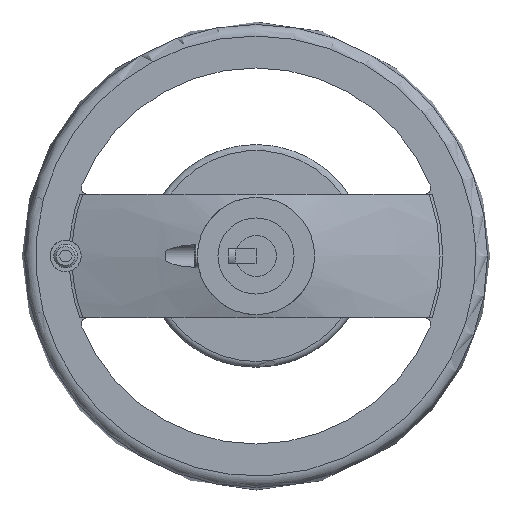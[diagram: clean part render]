
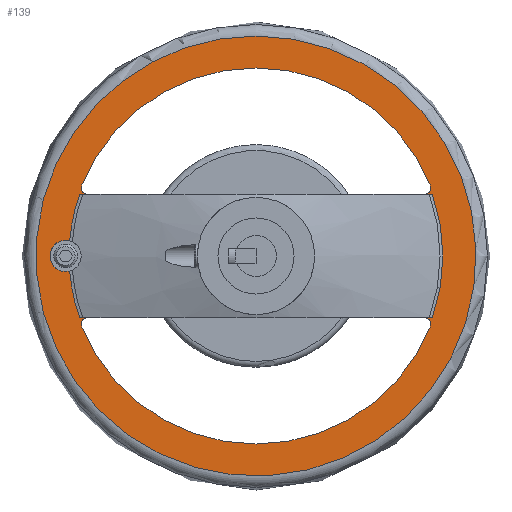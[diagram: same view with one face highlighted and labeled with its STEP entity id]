
A CAD part, left-side view. The second image highlights one B-rep face of the part: STEP entity #139.
In plain terms, the highlighted planar face has unit normal (-1, 0, 0).
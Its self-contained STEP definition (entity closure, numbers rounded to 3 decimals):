
#139 = ADVANCED_FACE( '', ( #347, #348, #349, #350 ), #351, .F. );
#347 = FACE_BOUND( '', #602, .T. );
#348 = FACE_OUTER_BOUND( '', #603, .T. );
#349 = FACE_BOUND( '', #604, .T. );
#350 = FACE_BOUND( '', #605, .T. );
#351 = PLANE( '', #606 );
#602 = EDGE_LOOP( '', ( #1198, #1199, #1200, #1201, #1202, #1203 ) );
#603 = EDGE_LOOP( '', ( #1204, #1205, #1206, #1207, #1208, #1209 ) );
#604 = EDGE_LOOP( '', ( #1210, #1211, #1212, #1213 ) );
#605 = EDGE_LOOP( '', ( #1214, #1215, #1216, #1217 ) );
#606 = AXIS2_PLACEMENT_3D( '', #1218, #1219, #1220 );
#1198 = ORIENTED_EDGE( '', *, *, #1688, .F. );
#1199 = ORIENTED_EDGE( '', *, *, #1541, .F. );
#1200 = ORIENTED_EDGE( '', *, *, #1544, .F. );
#1201 = ORIENTED_EDGE( '', *, *, #1546, .F. );
#1202 = ORIENTED_EDGE( '', *, *, #1689, .F. );
#1203 = ORIENTED_EDGE( '', *, *, #1690, .F. );
#1204 = ORIENTED_EDGE( '', *, *, #1691, .F. );
#1205 = ORIENTED_EDGE( '', *, *, #1685, .T. );
#1206 = ORIENTED_EDGE( '', *, *, #1659, .F. );
#1207 = ORIENTED_EDGE( '', *, *, #1692, .F. );
#1208 = ORIENTED_EDGE( '', *, *, #1683, .T. );
#1209 = ORIENTED_EDGE( '', *, *, #1693, .F. );
#1210 = ORIENTED_EDGE( '', *, *, #1694, .F. );
#1211 = ORIENTED_EDGE( '', *, *, #1648, .F. );
#1212 = ORIENTED_EDGE( '', *, *, #1695, .F. );
#1213 = ORIENTED_EDGE( '', *, *, #1696, .F. );
#1214 = ORIENTED_EDGE( '', *, *, #1697, .F. );
#1215 = ORIENTED_EDGE( '', *, *, #1698, .F. );
#1216 = ORIENTED_EDGE( '', *, *, #1699, .F. );
#1217 = ORIENTED_EDGE( '', *, *, #1562, .F. );
#1218 = CARTESIAN_POINT( '', ( 26., -75.109, 0. ) );
#1219 = DIRECTION( '', ( 1., 0., 0. ) );
#1220 = DIRECTION( '', ( 0., 0., -1. ) );
#1541 = EDGE_CURVE( '', #1805, #1807, #1808, .T. );
#1544 = EDGE_CURVE( '', #1810, #1805, #1812, .T. );
#1546 = EDGE_CURVE( '', #1815, #1810, #1816, .F. );
#1562 = EDGE_CURVE( '', #1843, #1845, #1846, .T. );
#1648 = EDGE_CURVE( '', #1997, #1999, #2000, .T. );
#1659 = EDGE_CURVE( '', #2017, #2015, #2019, .T. );
#1683 = EDGE_CURVE( '', #2059, #2060, #2061, .T. );
#1685 = EDGE_CURVE( '', #2063, #2015, #2064, .T. );
#1688 = EDGE_CURVE( '', #1807, #2068, #2069, .T. );
#1689 = EDGE_CURVE( '', #2070, #1815, #2071, .T. );
#1690 = EDGE_CURVE( '', #2068, #2070, #2072, .T. );
#1691 = EDGE_CURVE( '', #2063, #2073, #2074, .T. );
#1692 = EDGE_CURVE( '', #2059, #2017, #2075, .T. );
#1693 = EDGE_CURVE( '', #2073, #2060, #2076, .T. );
#1694 = EDGE_CURVE( '', #1999, #2077, #2078, .F. );
#1695 = EDGE_CURVE( '', #2079, #1997, #2080, .F. );
#1696 = EDGE_CURVE( '', #2077, #2079, #2081, .F. );
#1697 = EDGE_CURVE( '', #2082, #1843, #2083, .F. );
#1698 = EDGE_CURVE( '', #2084, #2082, #2085, .F. );
#1699 = EDGE_CURVE( '', #1845, #2084, #2086, .F. );
#1805 = VERTEX_POINT( '', #2350 );
#1807 = VERTEX_POINT( '', #2357 );
#1808 = LINE( '', #2358, #2359 );
#1810 = VERTEX_POINT( '', #2366 );
#1812 = CIRCLE( '', #2373, 63.814 );
#1815 = VERTEX_POINT( '', #2376 );
#1816 = CIRCLE( '', #2377, 5.333 );
#1843 = VERTEX_POINT( '', #2473 );
#1845 = VERTEX_POINT( '', #2476 );
#1846 = LINE( '', #2477, #2478 );
#1997 = VERTEX_POINT( '', #2818 );
#1999 = VERTEX_POINT( '', #2821 );
#2000 = LINE( '', #2822, #2823 );
#2015 = VERTEX_POINT( '', #2866 );
#2017 = VERTEX_POINT( '', #2872 );
#2019 = LINE( '', #2875, #2876 );
#2059 = VERTEX_POINT( '', #2988 );
#2060 = VERTEX_POINT( '', #2989 );
#2061 = CIRCLE( '', #2990, 75.109 );
#2063 = VERTEX_POINT( '', #2996 );
#2064 = CIRCLE( '', #2997, 75.109 );
#2068 = VERTEX_POINT( '', #3011 );
#2069 = CIRCLE( '', #3012, 63.814 );
#2070 = VERTEX_POINT( '', #3013 );
#2071 = CIRCLE( '', #3014, 63.814 );
#2072 = LINE( '', #3015, #3016 );
#2073 = VERTEX_POINT( '', #3017 );
#2074 = LINE( '', #3018, #3019 );
#2075 = LINE( '', #3020, #3021 );
#2076 = LINE( '', #3022, #3023 );
#2077 = VERTEX_POINT( '', #3024 );
#2078 = CIRCLE( '', #3025, 2. );
#2079 = VERTEX_POINT( '', #3026 );
#2080 = CIRCLE( '', #3027, 2. );
#2081 = CIRCLE( '', #3028, 64.2 );
#2082 = VERTEX_POINT( '', #3029 );
#2083 = CIRCLE( '', #3030, 2. );
#2084 = VERTEX_POINT( '', #3031 );
#2085 = CIRCLE( '', #3032, 64.2 );
#2086 = CIRCLE( '', #3033, 2. );
#2350 = CARTESIAN_POINT( '', ( 26., 60.208, -21.149 ) );
#2357 = CARTESIAN_POINT( '', ( 26., -60.208, -21.149 ) );
#2358 = CARTESIAN_POINT( '', ( 26., 160., -21.149 ) );
#2359 = VECTOR( '', #3183, 1000. );
#2366 = CARTESIAN_POINT( '', ( 26., 63.606, -5.148 ) );
#2373 = AXIS2_PLACEMENT_3D( '', #3184, #3185, #3186 );
#2376 = CARTESIAN_POINT( '', ( 26., 63.606, 5.148 ) );
#2377 = AXIS2_PLACEMENT_3D( '', #3190, #3191, #3192 );
#2473 = CARTESIAN_POINT( '', ( 26., 57.731, 21.15 ) );
#2476 = CARTESIAN_POINT( '', ( 26., -57.731, 21.15 ) );
#2477 = CARTESIAN_POINT( '', ( 26., -75.109, 21.15 ) );
#2478 = VECTOR( '', #3211, 1000. );
#2818 = CARTESIAN_POINT( '', ( 26., -57.731, -21.15 ) );
#2821 = CARTESIAN_POINT( '', ( 26., 57.731, -21.15 ) );
#2822 = CARTESIAN_POINT( '', ( 26., -75.109, -21.15 ) );
#2823 = VECTOR( '', #3366, 1000. );
#2866 = CARTESIAN_POINT( '', ( 26., 72.508, 19.596 ) );
#2872 = CARTESIAN_POINT( '', ( 26., 72.703, 19.596 ) );
#2875 = CARTESIAN_POINT( '', ( 26., 72.703, 19.596 ) );
#2876 = VECTOR( '', #3377, 1000. );
#2988 = CARTESIAN_POINT( '', ( 26., 72.703, 18.859 ) );
#2989 = CARTESIAN_POINT( '', ( 26., 72.703, -18.859 ) );
#2990 = AXIS2_PLACEMENT_3D( '', #3410, #3411, #3412 );
#2996 = CARTESIAN_POINT( '', ( 26., 72.508, -19.596 ) );
#2997 = AXIS2_PLACEMENT_3D( '', #3413, #3414, #3415 );
#3011 = CARTESIAN_POINT( '', ( 26., -60.208, 21.149 ) );
#3012 = AXIS2_PLACEMENT_3D( '', #3416, #3417, #3418 );
#3013 = CARTESIAN_POINT( '', ( 26., 60.208, 21.149 ) );
#3014 = AXIS2_PLACEMENT_3D( '', #3419, #3420, #3421 );
#3015 = CARTESIAN_POINT( '', ( 26., -160., 21.149 ) );
#3016 = VECTOR( '', #3422, 1000. );
#3017 = CARTESIAN_POINT( '', ( 26., 72.703, -19.596 ) );
#3018 = CARTESIAN_POINT( '', ( 26., 70.703, -19.596 ) );
#3019 = VECTOR( '', #3423, 1000. );
#3020 = CARTESIAN_POINT( '', ( 26., 72.703, -19.596 ) );
#3021 = VECTOR( '', #3424, 1000. );
#3022 = CARTESIAN_POINT( '', ( 26., 72.703, -19.596 ) );
#3023 = VECTOR( '', #3425, 1000. );
#3024 = CARTESIAN_POINT( '', ( 26., 59.588, -23.894 ) );
#3025 = AXIS2_PLACEMENT_3D( '', #3426, #3427, #3428 );
#3026 = CARTESIAN_POINT( '', ( 26., -59.588, -23.894 ) );
#3027 = AXIS2_PLACEMENT_3D( '', #3429, #3430, #3431 );
#3028 = AXIS2_PLACEMENT_3D( '', #3432, #3433, #3434 );
#3029 = CARTESIAN_POINT( '', ( 26., 59.588, 23.894 ) );
#3030 = AXIS2_PLACEMENT_3D( '', #3435, #3436, #3437 );
#3031 = CARTESIAN_POINT( '', ( 26., -59.588, 23.894 ) );
#3032 = AXIS2_PLACEMENT_3D( '', #3438, #3439, #3440 );
#3033 = AXIS2_PLACEMENT_3D( '', #3441, #3442, #3443 );
#3183 = DIRECTION( '', ( 0., -1., 0. ) );
#3184 = CARTESIAN_POINT( '', ( 26., 0., 0. ) );
#3185 = DIRECTION( '', ( -1., 0., 0. ) );
#3186 = DIRECTION( '', ( 0., 0., 1. ) );
#3190 = CARTESIAN_POINT( '', ( 26., 65., 0. ) );
#3191 = DIRECTION( '', ( 1., 0., 0. ) );
#3192 = DIRECTION( '', ( 0., 0., -1. ) );
#3211 = DIRECTION( '', ( 0., -1., 0. ) );
#3366 = DIRECTION( '', ( 0., 1., 0. ) );
#3377 = DIRECTION( '', ( 0., -1., 0. ) );
#3410 = CARTESIAN_POINT( '', ( 26., 0., 0. ) );
#3411 = DIRECTION( '', ( -1., 0., 0. ) );
#3412 = DIRECTION( '', ( 0., 0., 1. ) );
#3413 = CARTESIAN_POINT( '', ( 26., 0., 0. ) );
#3414 = DIRECTION( '', ( -1., 0., 0. ) );
#3415 = DIRECTION( '', ( 0., 0., 1. ) );
#3416 = CARTESIAN_POINT( '', ( 26., 0., 0. ) );
#3417 = DIRECTION( '', ( -1., 0., 0. ) );
#3418 = DIRECTION( '', ( 0., 0., 1. ) );
#3419 = CARTESIAN_POINT( '', ( 26., 0., 0. ) );
#3420 = DIRECTION( '', ( -1., 0., 0. ) );
#3421 = DIRECTION( '', ( 0., 0., 1. ) );
#3422 = DIRECTION( '', ( 0., 1., 0. ) );
#3423 = DIRECTION( '', ( 0., 1., 0. ) );
#3424 = DIRECTION( '', ( 0., 0., 1. ) );
#3425 = DIRECTION( '', ( 0., 0., 1. ) );
#3426 = CARTESIAN_POINT( '', ( 26., 57.731, -23.15 ) );
#3427 = DIRECTION( '', ( 1., 0., 0. ) );
#3428 = DIRECTION( '', ( 0., 0., -1. ) );
#3429 = CARTESIAN_POINT( '', ( 26., -57.731, -23.15 ) );
#3430 = DIRECTION( '', ( 1., 0., 0. ) );
#3431 = DIRECTION( '', ( 0., 0., -1. ) );
#3432 = CARTESIAN_POINT( '', ( 26., 0., 0. ) );
#3433 = DIRECTION( '', ( 1., 0., 0. ) );
#3434 = DIRECTION( '', ( 0., 0., -1. ) );
#3435 = CARTESIAN_POINT( '', ( 26., 57.731, 23.15 ) );
#3436 = DIRECTION( '', ( 1., 0., 0. ) );
#3437 = DIRECTION( '', ( 0., 0., -1. ) );
#3438 = CARTESIAN_POINT( '', ( 26., 0., 0. ) );
#3439 = DIRECTION( '', ( 1., 0., 0. ) );
#3440 = DIRECTION( '', ( 0., 0., -1. ) );
#3441 = CARTESIAN_POINT( '', ( 26., -57.731, 23.15 ) );
#3442 = DIRECTION( '', ( 1., 0., 0. ) );
#3443 = DIRECTION( '', ( 0., 0., -1. ) );
